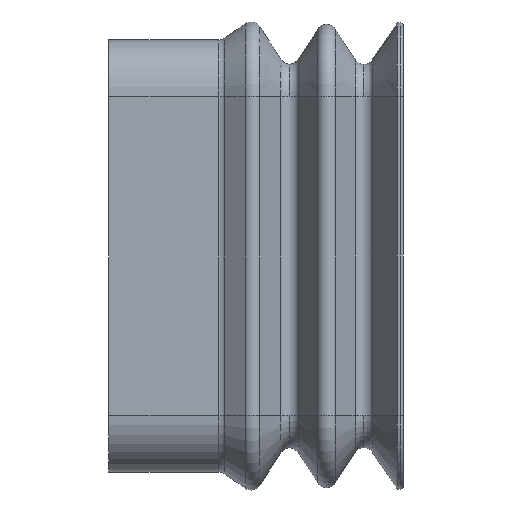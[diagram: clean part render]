
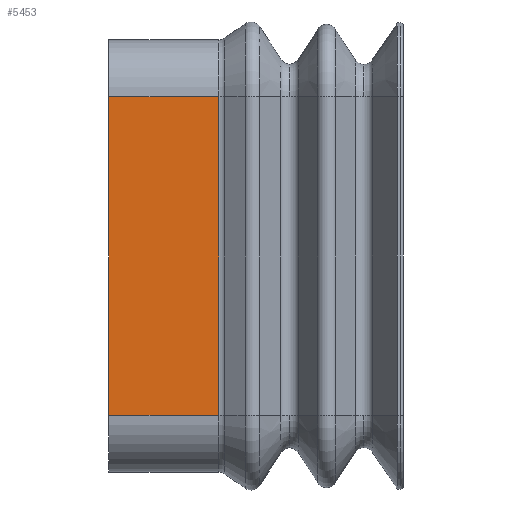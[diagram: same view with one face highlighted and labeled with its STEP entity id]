
A CAD part, left-side view. The second image highlights one B-rep face of the part: STEP entity #5453.
In plain terms, the highlighted planar face has unit normal (-1, 0, 0) as drawn and (0, -1, 0) by its records, which use the part's own axes.
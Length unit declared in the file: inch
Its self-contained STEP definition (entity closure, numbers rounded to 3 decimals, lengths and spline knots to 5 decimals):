
#94 = AXIS2_PLACEMENT_3D ( 'NONE', #219, #1482, #264 ) ;
#219 = CARTESIAN_POINT ( 'NONE',  ( -0.61024, -0.32874, -0.43307 ) ) ;
#264 = DIRECTION ( 'NONE',  ( 0., 0., -1. ) ) ;
#906 = CARTESIAN_POINT ( 'NONE',  ( 0.61024, -0.32874, -0.42086 ) ) ;
#959 = VERTEX_POINT ( 'NONE', #2200 ) ;
#1072 = ORIENTED_EDGE ( 'NONE', *, *, #1824, .F. ) ;
#1080 = EDGE_CURVE ( 'NONE', #959, #4350, #5502, .T. ) ;
#1482 = DIRECTION ( 'NONE',  ( 0., -1., 0. ) ) ;
#1824 = EDGE_CURVE ( 'NONE', #4350, #3886, #5617, .T. ) ;
#2173 = CARTESIAN_POINT ( 'NONE',  ( 0.61024, -0.32874, -0.43307 ) ) ;
#2200 = CARTESIAN_POINT ( 'NONE',  ( -0.61024, -0.32874, 0. ) ) ;
#2376 = CARTESIAN_POINT ( 'NONE',  ( 0.61024, -0.32874, 0. ) ) ;
#2662 = CARTESIAN_POINT ( 'NONE',  ( 0.61024, -0.32874, -0.42086 ) ) ;
#3511 = CARTESIAN_POINT ( 'NONE',  ( -0.61024, -0.32874, 0. ) ) ;
#3886 = VERTEX_POINT ( 'NONE', #2662 ) ;
#4231 = ORIENTED_EDGE ( 'NONE', *, *, #4705, .T. ) ;
#4348 = LINE ( 'NONE', #906, #6430 ) ;
#4350 = VERTEX_POINT ( 'NONE', #2376 ) ;
#4705 = EDGE_CURVE ( 'NONE', #7513, #3886, #4348, .T. ) ;
#4720 = CARTESIAN_POINT ( 'NONE',  ( -0.61024, -0.32874, -0.42086 ) ) ;
#5179 = CARTESIAN_POINT ( 'NONE',  ( -0.61024, -0.32874, -0.43307 ) ) ;
#5453 = ADVANCED_FACE ( 'NONE', ( #7787 ), #5788, .T. ) ;
#5502 = LINE ( 'NONE', #3511, #6844 ) ;
#5617 = LINE ( 'NONE', #2173, #7238 ) ;
#5788 = PLANE ( 'NONE',  #94 ) ;
#6286 = DIRECTION ( 'NONE',  ( 1., 0., 0. ) ) ;
#6430 = VECTOR ( 'NONE', #6451, 39.37008 ) ;
#6451 = DIRECTION ( 'NONE',  ( 1., 0., 0. ) ) ;
#6557 = LINE ( 'NONE', #5179, #7412 ) ;
#6844 = VECTOR ( 'NONE', #6286, 39.37008 ) ;
#7032 = DIRECTION ( 'NONE',  ( 0., 0., -1. ) ) ;
#7217 = ORIENTED_EDGE ( 'NONE', *, *, #1080, .F. ) ;
#7238 = VECTOR ( 'NONE', #7032, 39.37008 ) ;
#7412 = VECTOR ( 'NONE', #7960, 39.37008 ) ;
#7513 = VERTEX_POINT ( 'NONE', #4720 ) ;
#7549 = EDGE_LOOP ( 'NONE', ( #7761, #4231, #1072, #7217 ) ) ;
#7761 = ORIENTED_EDGE ( 'NONE', *, *, #7791, .T. ) ;
#7787 = FACE_OUTER_BOUND ( 'NONE', #7549, .T. ) ;
#7791 = EDGE_CURVE ( 'NONE', #959, #7513, #6557, .T. ) ;
#7960 = DIRECTION ( 'NONE',  ( 0., 0., -1. ) ) ;
